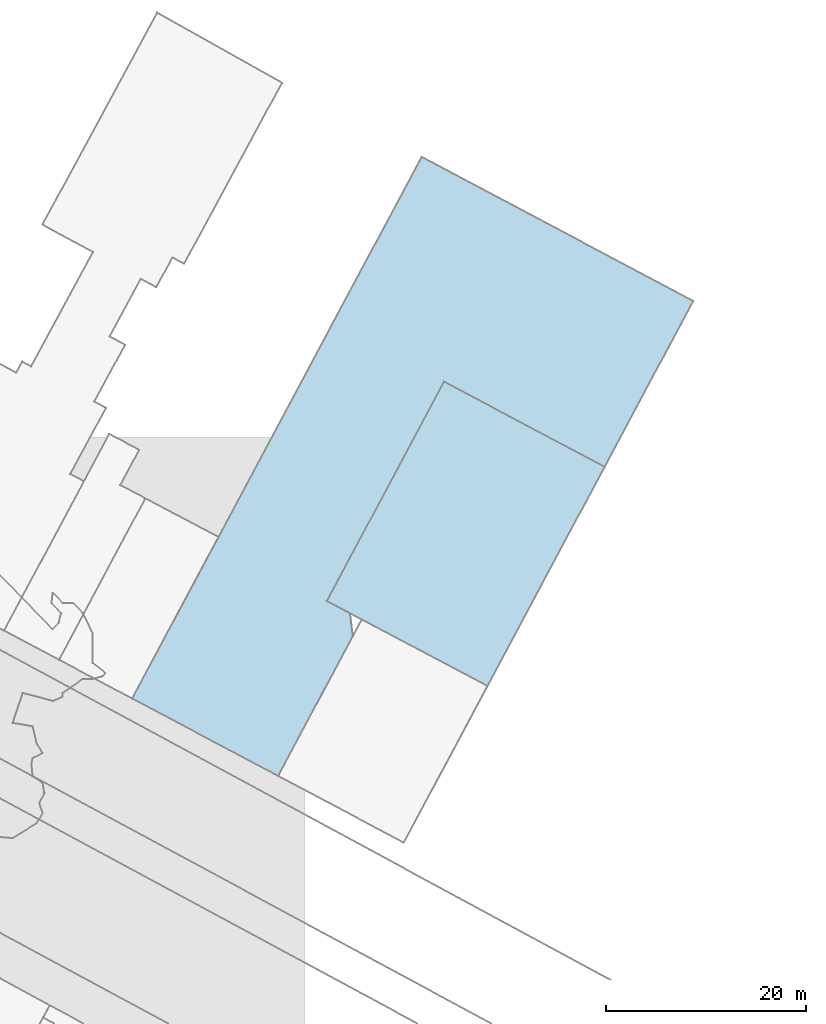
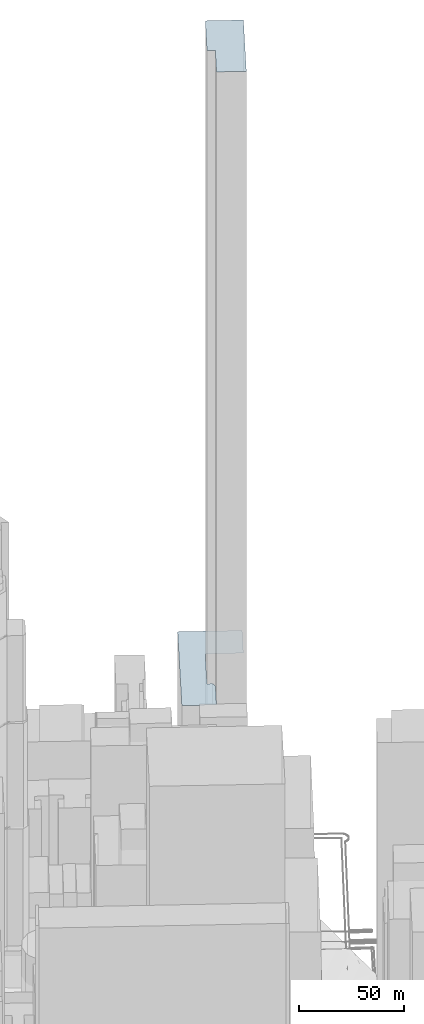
# Not in any storey, part 44 of 76: 2 roofs.
"""IFC2X3 model written with IfcOpenShell, lengths in metres."""

from ifc_helpers import new_model, si_unit, frame, origin_with_axes, place, context, subcontext, project, faceted_brep, element, save


model = new_model("IFC2X3")

# Units and contexts
model_context = context("Model", 3, precision=1e-05, world=origin_with_axes())
body_context = subcontext(model_context, "Body", "Model", "MODEL_VIEW")
ifc_project = project(units=[si_unit("AREAUNIT", "SQUARE_METRE"), si_unit("LENGTHUNIT", "METRE")], contexts=[model_context])

# Roofs
roof_1_placement = place(None, frame((369.7036563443, 345.7479637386, 18.6004102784), z_axis=(0.0, 0.0, 1.0), x_axis=(1.0, 0.0, 0.0)))
element("IfcRoof", 1, at=roof_1_placement, Name="Toiture 0", ShapeType="NOTDEFINED", context=body_context, shape_type="Brep", body=[
    faceted_brep([(8.3520704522, 15.6293873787, 435.0), (0.0, 0.0, 435.0), (12.5538989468, -6.6594085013, 435.0), (32.6119575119, 30.8779721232, 435.0), (16.5756487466, 39.3841472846, 435.0), (4.8696102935, 17.4761939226, 435.0)], [[[0, 1, 2]], [[2, 3, 4]], [[4, 5, 0]], [[0, 2, 4]]]),
])
roof_2_placement = place(None, frame((355.1197740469, 353.4828688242, 19.0004593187), z_axis=(0.0, 0.0, 1.0), x_axis=(1.0, 0.0, 0.0)))
element("IfcRoof", 2, at=roof_2_placement, Name="Toiture 0", ShapeType="NOTDEFINED", context=body_context, shape_type="Brep", body=[
    faceted_brep([(28.9225776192, 54.1052639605, 67.0), (0.0, 0.0, 67.0), (14.5838822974, -7.7349050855, 67.0), (22.0519980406, 6.2410466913, 67.0), (21.7807161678, 8.5138501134, 67.0), (31.159531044, 31.649242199, 67.0), (47.1958398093, 23.1430670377, 67.0), (56.0517837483, 39.7109589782, 67.0), (19.4534925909, 9.741288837, 67.0)], [[[0, 1, 2]], [[2, 3, 4]], [[5, 6, 7]], [[2, 4, 8]], [[5, 7, 0]], [[0, 2, 8]], [[8, 5, 0]]]),
])

save(model, "model.ifc")
